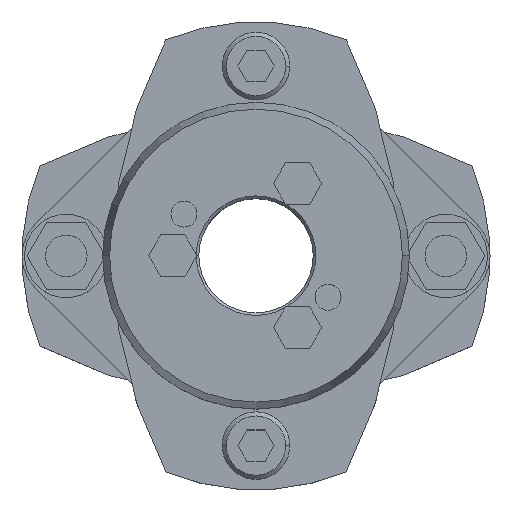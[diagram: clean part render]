
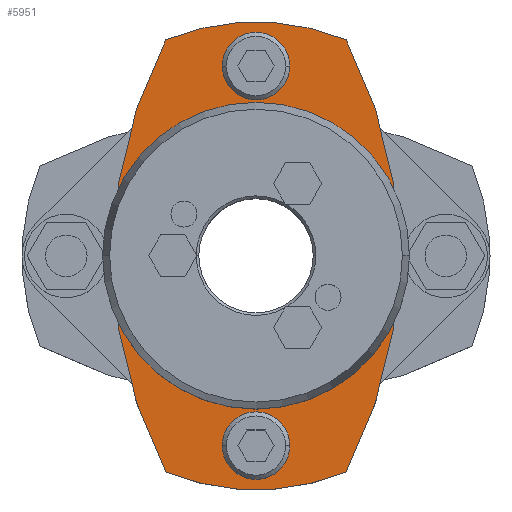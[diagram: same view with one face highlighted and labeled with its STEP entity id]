
A CAD part, top view. The second image highlights one B-rep face of the part: STEP entity #5951.
In plain terms, the highlighted planar face has unit normal (0, 0, 1).
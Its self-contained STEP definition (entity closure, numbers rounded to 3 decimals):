
#771=CARTESIAN_POINT('',(27.5,0.,14.25));
#772=VERTEX_POINT('',#771);
#781=CARTESIAN_POINT('',(17.35,-41.521,14.25));
#782=VERTEX_POINT('',#781);
#783=CARTESIAN_POINT('',(-62.5,0.,14.25));
#784=DIRECTION('',(0.0,0.0,-1.0));
#785=DIRECTION('',(-1.0,0.0,0.0));
#786=AXIS2_PLACEMENT_3D('',#783,#784,#785);
#787=CIRCLE('',#786,90.);
#788=EDGE_CURVE('',#772,#782,#787,.T.);
#815=CARTESIAN_POINT('',(-27.5,0.,14.25));
#816=VERTEX_POINT('',#815);
#832=CARTESIAN_POINT('',(-17.35,-41.521,14.25));
#833=VERTEX_POINT('',#832);
#840=CARTESIAN_POINT('',(62.5,0.,14.25));
#841=DIRECTION('',(0.0,0.0,-1.0));
#842=DIRECTION('',(-1.0,0.0,0.0));
#843=AXIS2_PLACEMENT_3D('',#840,#841,#842);
#844=CIRCLE('',#843,90.);
#845=EDGE_CURVE('',#833,#816,#844,.T.);
#1106=CARTESIAN_POINT('',(-20.5,0.,14.25));
#1107=VERTEX_POINT('',#1106);
#1157=CARTESIAN_POINT('',(20.5,0.,14.25));
#1158=VERTEX_POINT('',#1157);
#1165=CARTESIAN_POINT('',(0.,0.,14.25));
#1166=DIRECTION('',(0.0,0.0,-1.0));
#1167=DIRECTION('',(-1.0,0.0,0.0));
#1168=AXIS2_PLACEMENT_3D('',#1165,#1166,#1167);
#1169=CIRCLE('',#1168,20.5);
#1170=EDGE_CURVE('',#1107,#1158,#1169,.T.);
#1182=CARTESIAN_POINT('',(-6.5,-36.5,14.25));
#1183=VERTEX_POINT('',#1182);
#1199=CARTESIAN_POINT('',(6.5,-36.5,14.25));
#1200=VERTEX_POINT('',#1199);
#1207=CARTESIAN_POINT('',(0.,-36.5,14.25));
#1208=DIRECTION('',(0.0,0.0,-1.0));
#1209=DIRECTION('',(-1.0,0.0,0.0));
#1210=AXIS2_PLACEMENT_3D('',#1207,#1208,#1209);
#1211=CIRCLE('',#1210,6.5);
#1212=EDGE_CURVE('',#1183,#1200,#1211,.T.);
#1256=CARTESIAN_POINT('',(-6.5,36.5,14.25));
#1257=VERTEX_POINT('',#1256);
#1273=CARTESIAN_POINT('',(6.5,36.5,14.25));
#1274=VERTEX_POINT('',#1273);
#1281=CARTESIAN_POINT('',(0.,36.5,14.25));
#1282=DIRECTION('',(0.0,0.0,-1.0));
#1283=DIRECTION('',(-1.0,0.0,0.0));
#1284=AXIS2_PLACEMENT_3D('',#1281,#1282,#1283);
#1285=CIRCLE('',#1284,6.5);
#1286=EDGE_CURVE('',#1257,#1274,#1285,.T.);
#5373=CARTESIAN_POINT('',(0.,36.5,14.25));
#5374=DIRECTION('',(0.0,0.0,-1.0));
#5375=DIRECTION('',(-1.0,0.0,0.0));
#5376=AXIS2_PLACEMENT_3D('',#5373,#5374,#5375);
#5377=CIRCLE('',#5376,6.5);
#5378=EDGE_CURVE('',#1274,#1257,#5377,.T.);
#5433=CARTESIAN_POINT('',(0.,-36.5,14.25));
#5434=DIRECTION('',(0.0,0.0,-1.0));
#5435=DIRECTION('',(-1.0,0.0,0.0));
#5436=AXIS2_PLACEMENT_3D('',#5433,#5434,#5435);
#5437=CIRCLE('',#5436,6.5);
#5438=EDGE_CURVE('',#1200,#1183,#5437,.T.);
#5637=CARTESIAN_POINT('',(0.,0.,14.25));
#5638=DIRECTION('',(0.0,0.0,-1.0));
#5639=DIRECTION('',(-1.0,0.0,0.0));
#5640=AXIS2_PLACEMENT_3D('',#5637,#5638,#5639);
#5641=CIRCLE('',#5640,20.5);
#5642=EDGE_CURVE('',#1158,#1107,#5641,.T.);
#5845=CARTESIAN_POINT('',(0.,0.,14.25));
#5846=DIRECTION('',(0.0,0.0,-1.0));
#5847=DIRECTION('',(-1.0,0.0,0.0));
#5848=AXIS2_PLACEMENT_3D('',#5845,#5846,#5847);
#5849=CIRCLE('',#5848,45.);
#5850=EDGE_CURVE('',#782,#833,#5849,.T.);
#5864=CARTESIAN_POINT('',(-17.35,41.521,14.25));
#5865=VERTEX_POINT('',#5864);
#5866=CARTESIAN_POINT('',(62.5,0.,14.25));
#5867=DIRECTION('',(0.0,0.0,-1.0));
#5868=DIRECTION('',(-1.0,0.0,0.0));
#5869=AXIS2_PLACEMENT_3D('',#5866,#5867,#5868);
#5870=CIRCLE('',#5869,90.);
#5871=EDGE_CURVE('',#816,#5865,#5870,.T.);
#5888=CARTESIAN_POINT('',(17.35,41.521,14.25));
#5889=VERTEX_POINT('',#5888);
#5890=CARTESIAN_POINT('',(0.,0.,14.25));
#5891=DIRECTION('',(0.0,0.0,-1.0));
#5892=DIRECTION('',(-1.0,0.0,0.0));
#5893=AXIS2_PLACEMENT_3D('',#5890,#5891,#5892);
#5894=CIRCLE('',#5893,45.);
#5895=EDGE_CURVE('',#5865,#5889,#5894,.T.);
#5916=CARTESIAN_POINT('',(-62.5,0.,14.25));
#5917=DIRECTION('',(0.0,0.0,-1.0));
#5918=DIRECTION('',(-1.0,0.0,0.0));
#5919=AXIS2_PLACEMENT_3D('',#5916,#5917,#5918);
#5920=CIRCLE('',#5919,90.);
#5921=EDGE_CURVE('',#5889,#772,#5920,.T.);
#5926=CARTESIAN_POINT('',(0.,0.,14.25));
#5927=DIRECTION('',(0.0,0.0,1.0));
#5928=DIRECTION('',(-1.0,0.0,0.0));
#5929=AXIS2_PLACEMENT_3D('',#5926,#5927,#5928);
#5930=PLANE('',#5929);
#5931=ORIENTED_EDGE('',*,*,#5850,.F.);
#5932=ORIENTED_EDGE('',*,*,#788,.F.);
#5933=ORIENTED_EDGE('',*,*,#5921,.F.);
#5934=ORIENTED_EDGE('',*,*,#5895,.F.);
#5935=ORIENTED_EDGE('',*,*,#5871,.F.);
#5936=ORIENTED_EDGE('',*,*,#845,.F.);
#5937=EDGE_LOOP('',(#5931,#5932,#5933,#5934,#5935,#5936));
#5938=FACE_OUTER_BOUND('',#5937,.T.);
#5939=ORIENTED_EDGE('',*,*,#1286,.T.);
#5940=ORIENTED_EDGE('',*,*,#5378,.T.);
#5941=EDGE_LOOP('',(#5939,#5940));
#5942=FACE_BOUND('',#5941,.T.);
#5943=ORIENTED_EDGE('',*,*,#1212,.T.);
#5944=ORIENTED_EDGE('',*,*,#5438,.T.);
#5945=EDGE_LOOP('',(#5943,#5944));
#5946=FACE_BOUND('',#5945,.T.);
#5947=ORIENTED_EDGE('',*,*,#1170,.T.);
#5948=ORIENTED_EDGE('',*,*,#5642,.T.);
#5949=EDGE_LOOP('',(#5947,#5948));
#5950=FACE_BOUND('',#5949,.T.);
#5951=ADVANCED_FACE('',(#5938,#5942,#5946,#5950),#5930,.T.);
